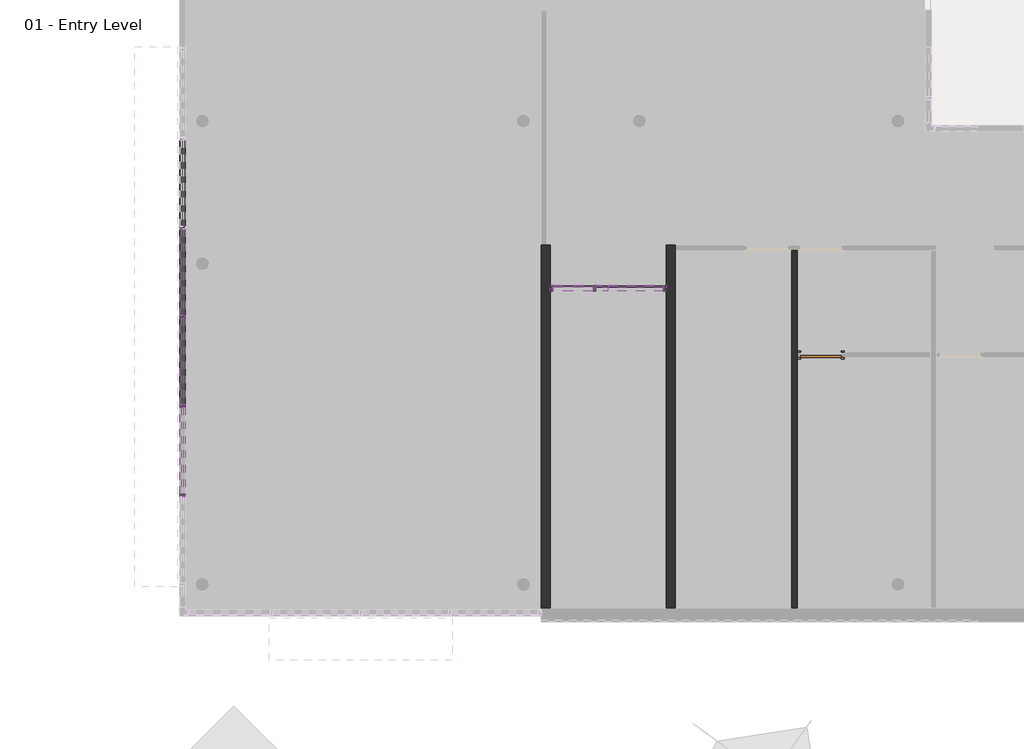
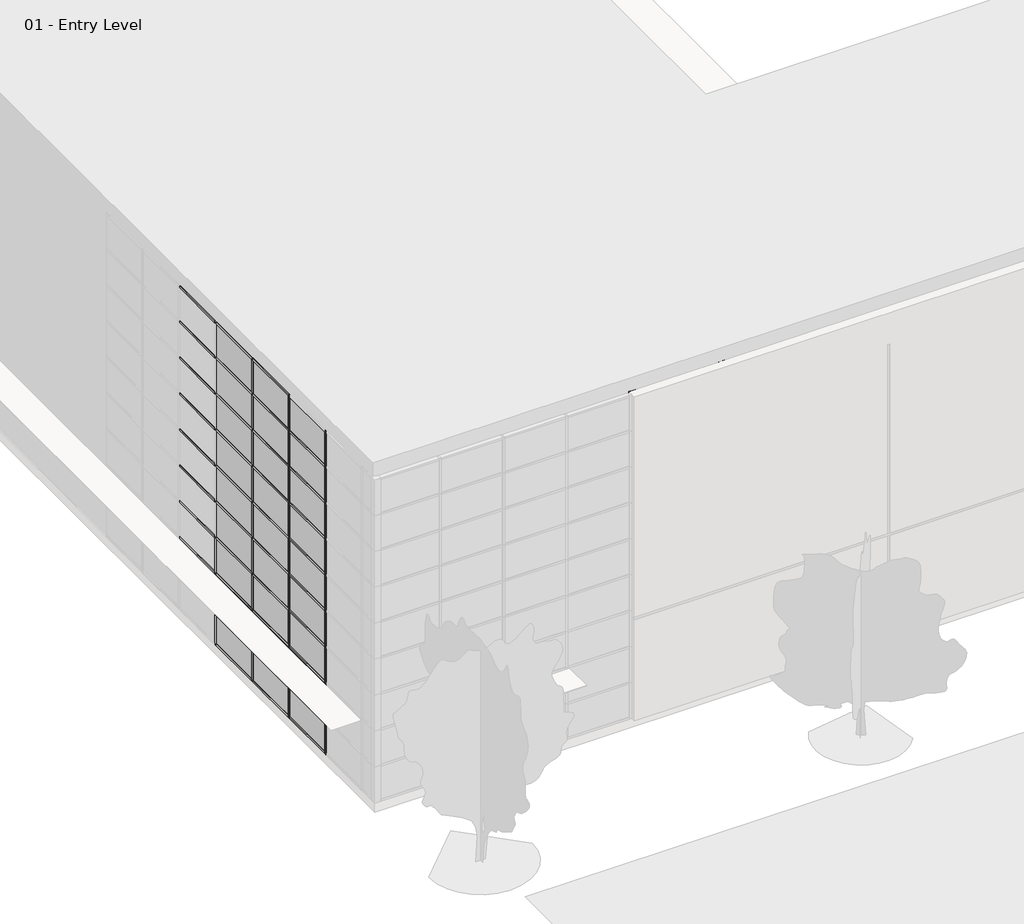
# One storey, part 7 of 34: 85 members, 31 plates, 3 walls, 2 doors.
"""IFC4 building model written with IfcOpenShell, lengths in millimetres."""

from ifc_helpers import new_model, si_unit, origin, place, context, project, spatial, faceted_brep, transform, mapped, element, save
from components import curtain_wall_sgl_glass_curtain_wall_sgl_glass_c2d4b377, door_a1797ceb, member_2b49869a, member_18e22e2d, member_9193c932, member_391b434c, member_9e90ae50, member_6186cc23, member_5d67b9fc, member_c327c56d, member_a50b3cda, member_410c6227, member_73c23c35, member_bcb6a316, member_d3323a85, member_7bd2cd2c, member_6be37683, system_panel_glazed_1b9d6098, system_panel_glazed_70da479d, system_panel_glazed_652e8fc4, system_panel_glazed_8dc8626f, system_panel_glazed_561e95a3, system_panel_glazed_c516a964, system_panel_solid_b376696c, system_panel_solid_77e8b053

model = new_model("IFC4")

# Units and contexts
model_context = context("Model", 3, world=origin())
ifc_project = project(units=[si_unit("LENGTHUNIT", "METRE", prefix="MILLI")], contexts=[model_context])

# Site, building, storey
site = spatial("IfcSite", under=ifc_project)
building = spatial("IfcBuilding", under=site)
storey = spatial("IfcBuildingStorey", under=building, Name="01 - Entry Level", Elevation=0.0)

# Doors
placement = place(None, origin())
curtain_wall_sgl_glass_curtain_wall_sgl_glass_shape = curtain_wall_sgl_glass_curtain_wall_sgl_glass_c2d4b377(model_context)
element("IfcDoor", 1, ObjectType="Curtain Wall Sgl Glass : Curtain Wall Sgl Glass", at=placement, inside=storey, context=model_context, shape_type="MappedRepresentation", body=[
    mapped(curtain_wall_sgl_glass_curtain_wall_sgl_glass_shape, transform((9081.4207476, 7356.4, 0.0), x_axis=(-1.0, 0.0, 0.0), y_axis=(0.0, -1.0, 0.0), z_axis=(0.0, 0.0, 1.0))),
])
door_shape = door_a1797ceb(model_context)
element("IfcDoor", 2, ObjectType="Single-Flush : 36\" x 84\"", at=placement, inside=storey, context=model_context, shape_type="MappedRepresentation", body=[
    mapped(door_shape, transform((14732.9207476, 5832.4, 0.0), x_axis=(-1.0, 0.0, 0.0), y_axis=(0.0, -1.0, 0.0), z_axis=(0.0, 0.0, 1.0))),
])

# Members
member_shape = member_2b49869a(model_context)
element("IfcMember", 3, ObjectType="Rectangular Mullion : 2.5\" x 5\" rectangular", at=placement, inside=storey, context=model_context, shape_type="MappedRepresentation", body=[
    mapped(member_shape, transform((178.7207476, 6696.0, 9753.6), x_axis=(0.0, -1.0, 0.0), y_axis=(-1.0, 0.0, 0.0), z_axis=(0.0, 0.0, -1.0))),
])
element("IfcMember", 4, ObjectType="Rectangular Mullion : 2.5\" x 5\" rectangular", at=placement, inside=storey, context=model_context, shape_type="MappedRepresentation", body=[
    mapped(member_shape, transform((178.7207476, 4664.0, 9753.6), x_axis=(0.0, -1.0, 0.0), y_axis=(-1.0, 0.0, 0.0), z_axis=(0.0, 0.0, -1.0))),
])
element("IfcMember", 5, ObjectType="Rectangular Mullion : 2.5\" x 5\" rectangular", at=placement, inside=storey, context=model_context, shape_type="MappedRepresentation", body=[
    mapped(member_shape, transform((178.7207476, 2632.0, 9753.6), x_axis=(0.0, -1.0, 0.0), y_axis=(-1.0, 0.0, 0.0), z_axis=(0.0, 0.0, -1.0))),
])
member_2_shape = member_18e22e2d(model_context)
element("IfcMember", 6, ObjectType="Rectangular Mullion : 2.5\" x 5\" rectangular", at=placement, inside=storey, context=model_context, shape_type="MappedRepresentation", body=[
    mapped(member_2_shape, transform((9570.3707476, 7356.4, 2438.4), x_axis=(-1.0, 0.0, 0.0), y_axis=(0.0, 1.0, 0.0), z_axis=(0.0, 0.0, -1.0))),
])
member_3_shape = member_9193c932(model_context)
element("IfcMember", 7, ObjectType="Rectangular Mullion : 2.5\" x 5\" rectangular", at=placement, inside=storey, context=model_context, shape_type="MappedRepresentation", body=[
    mapped(member_3_shape, transform((11202.3207476, 7356.4, 3403.6), x_axis=(1.0, 0.0, 0.0), y_axis=(0.0, 1.0, 0.0), z_axis=(0.0, 0.0, 1.0))),
])
element("IfcMember", 8, ObjectType="Rectangular Mullion : 2.5\" x 5\" rectangular", at=placement, inside=storey, context=model_context, shape_type="MappedRepresentation", body=[
    mapped(member_3_shape, transform((8560.7207476, 7356.4, 2438.4), x_axis=(-1.0, 0.0, 0.0), y_axis=(0.0, 1.0, 0.0), z_axis=(0.0, 0.0, -1.0))),
])
member_4_shape = member_391b434c(model_context)
element("IfcMember", 9, ObjectType="Rectangular Mullion : 2.5\" x 5\" rectangular", at=placement, inside=storey, context=model_context, shape_type="MappedRepresentation", body=[
    mapped(member_4_shape, transform((178.7207476, 8759.75, 10972.8), x_axis=(0.0, 0.0, 1.0), y_axis=(-1.0, 0.0, 0.0), z_axis=(0.0, -1.0, 0.0))),
])
element("IfcMember", 10, ObjectType="Rectangular Mullion : 2.5\" x 5\" rectangular", at=placement, inside=storey, context=model_context, shape_type="MappedRepresentation", body=[
    mapped(member_4_shape, transform((178.7207476, 6727.75, 10972.8), x_axis=(0.0, 0.0, 1.0), y_axis=(-1.0, 0.0, 0.0), z_axis=(0.0, -1.0, 0.0))),
])
element("IfcMember", 11, ObjectType="Rectangular Mullion : 2.5\" x 5\" rectangular", at=placement, inside=storey, context=model_context, shape_type="MappedRepresentation", body=[
    mapped(member_4_shape, transform((178.7207476, 4695.75, 10972.8), x_axis=(0.0, 0.0, 1.0), y_axis=(-1.0, 0.0, 0.0), z_axis=(0.0, -1.0, 0.0))),
])
element("IfcMember", 12, ObjectType="Rectangular Mullion : 2.5\" x 5\" rectangular", at=placement, inside=storey, context=model_context, shape_type="MappedRepresentation", body=[
    mapped(member_4_shape, transform((178.7207476, 8696.25, 0.0), x_axis=(0.0, 0.0, -1.0), y_axis=(-1.0, 0.0, 0.0), z_axis=(0.0, 1.0, 0.0))),
])
element("IfcMember", 13, ObjectType="Rectangular Mullion : 2.5\" x 5\" rectangular", at=placement, inside=storey, context=model_context, shape_type="MappedRepresentation", body=[
    mapped(member_4_shape, transform((178.7207476, 6664.25, 0.0), x_axis=(0.0, 0.0, -1.0), y_axis=(-1.0, 0.0, 0.0), z_axis=(0.0, 1.0, 0.0))),
])
element("IfcMember", 14, ObjectType="Rectangular Mullion : 2.5\" x 5\" rectangular", at=placement, inside=storey, context=model_context, shape_type="MappedRepresentation", body=[
    mapped(member_4_shape, transform((178.7207476, 4632.25, 0.0), x_axis=(0.0, 0.0, -1.0), y_axis=(-1.0, 0.0, 0.0), z_axis=(0.0, 1.0, 0.0))),
])
member_5_shape = member_9e90ae50(model_context)
element("IfcMember", 15, ObjectType="Rectangular Mullion : 2.5\" x 5\" rectangular", at=placement, inside=storey, context=model_context, shape_type="MappedRepresentation", body=[
    mapped(member_5_shape, transform((178.7207476, 8759.75, 1219.2), x_axis=(0.0, 0.0, 1.0), y_axis=(-1.0, 0.0, 0.0), z_axis=(0.0, -1.0, 0.0))),
])
element("IfcMember", 16, ObjectType="Rectangular Mullion : 2.5\" x 5\" rectangular", at=placement, inside=storey, context=model_context, shape_type="MappedRepresentation", body=[
    mapped(member_5_shape, transform((178.7207476, 6727.75, 1219.2), x_axis=(0.0, 0.0, 1.0), y_axis=(-1.0, 0.0, 0.0), z_axis=(0.0, -1.0, 0.0))),
])
element("IfcMember", 17, ObjectType="Rectangular Mullion : 2.5\" x 5\" rectangular", at=placement, inside=storey, context=model_context, shape_type="MappedRepresentation", body=[
    mapped(member_5_shape, transform((178.7207476, 4695.75, 1219.2), x_axis=(0.0, 0.0, 1.0), y_axis=(-1.0, 0.0, 0.0), z_axis=(0.0, -1.0, 0.0))),
])
element("IfcMember", 18, ObjectType="Rectangular Mullion : 2.5\" x 5\" rectangular", at=placement, inside=storey, context=model_context, shape_type="MappedRepresentation", body=[
    mapped(member_5_shape, transform((178.7207476, 8759.75, 2438.4), x_axis=(0.0, 0.0, 1.0), y_axis=(-1.0, 0.0, 0.0), z_axis=(0.0, -1.0, 0.0))),
])
element("IfcMember", 19, ObjectType="Rectangular Mullion : 2.5\" x 5\" rectangular", at=placement, inside=storey, context=model_context, shape_type="MappedRepresentation", body=[
    mapped(member_5_shape, transform((178.7207476, 6727.75, 2438.4), x_axis=(0.0, 0.0, 1.0), y_axis=(-1.0, 0.0, 0.0), z_axis=(0.0, -1.0, 0.0))),
])
element("IfcMember", 20, ObjectType="Rectangular Mullion : 2.5\" x 5\" rectangular", at=placement, inside=storey, context=model_context, shape_type="MappedRepresentation", body=[
    mapped(member_5_shape, transform((178.7207476, 4695.75, 2438.4), x_axis=(0.0, 0.0, 1.0), y_axis=(-1.0, 0.0, 0.0), z_axis=(0.0, -1.0, 0.0))),
])
element("IfcMember", 21, ObjectType="Rectangular Mullion : 2.5\" x 5\" rectangular", at=placement, inside=storey, context=model_context, shape_type="MappedRepresentation", body=[
    mapped(member_5_shape, transform((178.7207476, 2663.75, 2438.4), x_axis=(0.0, 0.0, 1.0), y_axis=(-1.0, 0.0, 0.0), z_axis=(0.0, -1.0, 0.0))),
])
element("IfcMember", 22, ObjectType="Rectangular Mullion : 2.5\" x 5\" rectangular", at=placement, inside=storey, context=model_context, shape_type="MappedRepresentation", body=[
    mapped(member_5_shape, transform((178.7207476, 8759.75, 3657.6), x_axis=(0.0, 0.0, 1.0), y_axis=(-1.0, 0.0, 0.0), z_axis=(0.0, -1.0, 0.0))),
])
element("IfcMember", 23, ObjectType="Rectangular Mullion : 2.5\" x 5\" rectangular", at=placement, inside=storey, context=model_context, shape_type="MappedRepresentation", body=[
    mapped(member_5_shape, transform((178.7207476, 6727.75, 3657.6), x_axis=(0.0, 0.0, 1.0), y_axis=(-1.0, 0.0, 0.0), z_axis=(0.0, -1.0, 0.0))),
])
element("IfcMember", 24, ObjectType="Rectangular Mullion : 2.5\" x 5\" rectangular", at=placement, inside=storey, context=model_context, shape_type="MappedRepresentation", body=[
    mapped(member_5_shape, transform((178.7207476, 4695.75, 3657.6), x_axis=(0.0, 0.0, 1.0), y_axis=(-1.0, 0.0, 0.0), z_axis=(0.0, -1.0, 0.0))),
])
element("IfcMember", 25, ObjectType="Rectangular Mullion : 2.5\" x 5\" rectangular", at=placement, inside=storey, context=model_context, shape_type="MappedRepresentation", body=[
    mapped(member_5_shape, transform((178.7207476, 2663.75, 3657.6), x_axis=(0.0, 0.0, 1.0), y_axis=(-1.0, 0.0, 0.0), z_axis=(0.0, -1.0, 0.0))),
])
element("IfcMember", 26, ObjectType="Rectangular Mullion : 2.5\" x 5\" rectangular", at=placement, inside=storey, context=model_context, shape_type="MappedRepresentation", body=[
    mapped(member_5_shape, transform((178.7207476, 8759.75, 4876.8), x_axis=(0.0, 0.0, 1.0), y_axis=(-1.0, 0.0, 0.0), z_axis=(0.0, -1.0, 0.0))),
])
element("IfcMember", 27, ObjectType="Rectangular Mullion : 2.5\" x 5\" rectangular", at=placement, inside=storey, context=model_context, shape_type="MappedRepresentation", body=[
    mapped(member_5_shape, transform((178.7207476, 6727.75, 4876.8), x_axis=(0.0, 0.0, 1.0), y_axis=(-1.0, 0.0, 0.0), z_axis=(0.0, -1.0, 0.0))),
])
element("IfcMember", 28, ObjectType="Rectangular Mullion : 2.5\" x 5\" rectangular", at=placement, inside=storey, context=model_context, shape_type="MappedRepresentation", body=[
    mapped(member_5_shape, transform((178.7207476, 4695.75, 4876.8), x_axis=(0.0, 0.0, 1.0), y_axis=(-1.0, 0.0, 0.0), z_axis=(0.0, -1.0, 0.0))),
])
element("IfcMember", 29, ObjectType="Rectangular Mullion : 2.5\" x 5\" rectangular", at=placement, inside=storey, context=model_context, shape_type="MappedRepresentation", body=[
    mapped(member_5_shape, transform((178.7207476, 2663.75, 4876.8), x_axis=(0.0, 0.0, 1.0), y_axis=(-1.0, 0.0, 0.0), z_axis=(0.0, -1.0, 0.0))),
])
element("IfcMember", 30, ObjectType="Rectangular Mullion : 2.5\" x 5\" rectangular", at=placement, inside=storey, context=model_context, shape_type="MappedRepresentation", body=[
    mapped(member_5_shape, transform((178.7207476, 8759.75, 6096.0), x_axis=(0.0, 0.0, 1.0), y_axis=(-1.0, 0.0, 0.0), z_axis=(0.0, -1.0, 0.0))),
])
element("IfcMember", 31, ObjectType="Rectangular Mullion : 2.5\" x 5\" rectangular", at=placement, inside=storey, context=model_context, shape_type="MappedRepresentation", body=[
    mapped(member_5_shape, transform((178.7207476, 6727.75, 6096.0), x_axis=(0.0, 0.0, 1.0), y_axis=(-1.0, 0.0, 0.0), z_axis=(0.0, -1.0, 0.0))),
])
element("IfcMember", 32, ObjectType="Rectangular Mullion : 2.5\" x 5\" rectangular", at=placement, inside=storey, context=model_context, shape_type="MappedRepresentation", body=[
    mapped(member_5_shape, transform((178.7207476, 4695.75, 6096.0), x_axis=(0.0, 0.0, 1.0), y_axis=(-1.0, 0.0, 0.0), z_axis=(0.0, -1.0, 0.0))),
])
element("IfcMember", 33, ObjectType="Rectangular Mullion : 2.5\" x 5\" rectangular", at=placement, inside=storey, context=model_context, shape_type="MappedRepresentation", body=[
    mapped(member_5_shape, transform((178.7207476, 2663.75, 6096.0), x_axis=(0.0, 0.0, 1.0), y_axis=(-1.0, 0.0, 0.0), z_axis=(0.0, -1.0, 0.0))),
])
element("IfcMember", 34, ObjectType="Rectangular Mullion : 2.5\" x 5\" rectangular", at=placement, inside=storey, context=model_context, shape_type="MappedRepresentation", body=[
    mapped(member_5_shape, transform((178.7207476, 8759.75, 7315.2), x_axis=(0.0, 0.0, 1.0), y_axis=(-1.0, 0.0, 0.0), z_axis=(0.0, -1.0, 0.0))),
])
element("IfcMember", 35, ObjectType="Rectangular Mullion : 2.5\" x 5\" rectangular", at=placement, inside=storey, context=model_context, shape_type="MappedRepresentation", body=[
    mapped(member_5_shape, transform((178.7207476, 6727.75, 7315.2), x_axis=(0.0, 0.0, 1.0), y_axis=(-1.0, 0.0, 0.0), z_axis=(0.0, -1.0, 0.0))),
])
element("IfcMember", 36, ObjectType="Rectangular Mullion : 2.5\" x 5\" rectangular", at=placement, inside=storey, context=model_context, shape_type="MappedRepresentation", body=[
    mapped(member_5_shape, transform((178.7207476, 4695.75, 7315.2), x_axis=(0.0, 0.0, 1.0), y_axis=(-1.0, 0.0, 0.0), z_axis=(0.0, -1.0, 0.0))),
])
element("IfcMember", 37, ObjectType="Rectangular Mullion : 2.5\" x 5\" rectangular", at=placement, inside=storey, context=model_context, shape_type="MappedRepresentation", body=[
    mapped(member_5_shape, transform((178.7207476, 2663.75, 7315.2), x_axis=(0.0, 0.0, 1.0), y_axis=(-1.0, 0.0, 0.0), z_axis=(0.0, -1.0, 0.0))),
])
element("IfcMember", 38, ObjectType="Rectangular Mullion : 2.5\" x 5\" rectangular", at=placement, inside=storey, context=model_context, shape_type="MappedRepresentation", body=[
    mapped(member_5_shape, transform((178.7207476, 8759.75, 8534.4), x_axis=(0.0, 0.0, 1.0), y_axis=(-1.0, 0.0, 0.0), z_axis=(0.0, -1.0, 0.0))),
])
element("IfcMember", 39, ObjectType="Rectangular Mullion : 2.5\" x 5\" rectangular", at=placement, inside=storey, context=model_context, shape_type="MappedRepresentation", body=[
    mapped(member_5_shape, transform((178.7207476, 6727.75, 8534.4), x_axis=(0.0, 0.0, 1.0), y_axis=(-1.0, 0.0, 0.0), z_axis=(0.0, -1.0, 0.0))),
])
element("IfcMember", 40, ObjectType="Rectangular Mullion : 2.5\" x 5\" rectangular", at=placement, inside=storey, context=model_context, shape_type="MappedRepresentation", body=[
    mapped(member_5_shape, transform((178.7207476, 4695.75, 8534.4), x_axis=(0.0, 0.0, 1.0), y_axis=(-1.0, 0.0, 0.0), z_axis=(0.0, -1.0, 0.0))),
])
element("IfcMember", 41, ObjectType="Rectangular Mullion : 2.5\" x 5\" rectangular", at=placement, inside=storey, context=model_context, shape_type="MappedRepresentation", body=[
    mapped(member_5_shape, transform((178.7207476, 2663.75, 8534.4), x_axis=(0.0, 0.0, 1.0), y_axis=(-1.0, 0.0, 0.0), z_axis=(0.0, -1.0, 0.0))),
])
element("IfcMember", 42, ObjectType="Rectangular Mullion : 2.5\" x 5\" rectangular", at=placement, inside=storey, context=model_context, shape_type="MappedRepresentation", body=[
    mapped(member_5_shape, transform((178.7207476, 8759.75, 9753.6), x_axis=(0.0, 0.0, 1.0), y_axis=(-1.0, 0.0, 0.0), z_axis=(0.0, -1.0, 0.0))),
])
element("IfcMember", 43, ObjectType="Rectangular Mullion : 2.5\" x 5\" rectangular", at=placement, inside=storey, context=model_context, shape_type="MappedRepresentation", body=[
    mapped(member_5_shape, transform((178.7207476, 6727.75, 9753.6), x_axis=(0.0, 0.0, 1.0), y_axis=(-1.0, 0.0, 0.0), z_axis=(0.0, -1.0, 0.0))),
])
element("IfcMember", 44, ObjectType="Rectangular Mullion : 2.5\" x 5\" rectangular", at=placement, inside=storey, context=model_context, shape_type="MappedRepresentation", body=[
    mapped(member_5_shape, transform((178.7207476, 4695.75, 9753.6), x_axis=(0.0, 0.0, 1.0), y_axis=(-1.0, 0.0, 0.0), z_axis=(0.0, -1.0, 0.0))),
])
element("IfcMember", 45, ObjectType="Rectangular Mullion : 2.5\" x 5\" rectangular", at=placement, inside=storey, context=model_context, shape_type="MappedRepresentation", body=[
    mapped(member_5_shape, transform((178.7207476, 2663.75, 9753.6), x_axis=(0.0, 0.0, 1.0), y_axis=(-1.0, 0.0, 0.0), z_axis=(0.0, -1.0, 0.0))),
])
element("IfcMember", 46, ObjectType="Rectangular Mullion : 2.5\" x 5\" rectangular", at=placement, inside=storey, context=model_context, shape_type="MappedRepresentation", body=[
    mapped(member_shape, transform((178.7207476, 8728.0, 0.0), x_axis=(0.0, -1.0, 0.0), y_axis=(-1.0, 0.0, 0.0), z_axis=(0.0, 0.0, -1.0))),
])
element("IfcMember", 47, ObjectType="Rectangular Mullion : 2.5\" x 5\" rectangular", at=placement, inside=storey, context=model_context, shape_type="MappedRepresentation", body=[
    mapped(member_shape, transform((178.7207476, 6696.0, 0.0), x_axis=(0.0, -1.0, 0.0), y_axis=(-1.0, 0.0, 0.0), z_axis=(0.0, 0.0, -1.0))),
])
element("IfcMember", 48, ObjectType="Rectangular Mullion : 2.5\" x 5\" rectangular", at=placement, inside=storey, context=model_context, shape_type="MappedRepresentation", body=[
    mapped(member_shape, transform((178.7207476, 4664.0, 0.0), x_axis=(0.0, -1.0, 0.0), y_axis=(-1.0, 0.0, 0.0), z_axis=(0.0, 0.0, -1.0))),
])
element("IfcMember", 49, ObjectType="Rectangular Mullion : 2.5\" x 5\" rectangular", at=placement, inside=storey, context=model_context, shape_type="MappedRepresentation", body=[
    mapped(member_shape, transform((178.7207476, 2632.0, 0.0), x_axis=(0.0, -1.0, 0.0), y_axis=(-1.0, 0.0, 0.0), z_axis=(0.0, 0.0, -1.0))),
])
element("IfcMember", 50, ObjectType="Rectangular Mullion : 2.5\" x 5\" rectangular", at=placement, inside=storey, context=model_context, shape_type="MappedRepresentation", body=[
    mapped(member_shape, transform((178.7207476, 8728.0, 1219.2), x_axis=(0.0, -1.0, 0.0), y_axis=(-1.0, 0.0, 0.0), z_axis=(0.0, 0.0, -1.0))),
])
element("IfcMember", 51, ObjectType="Rectangular Mullion : 2.5\" x 5\" rectangular", at=placement, inside=storey, context=model_context, shape_type="MappedRepresentation", body=[
    mapped(member_shape, transform((178.7207476, 6696.0, 1219.2), x_axis=(0.0, -1.0, 0.0), y_axis=(-1.0, 0.0, 0.0), z_axis=(0.0, 0.0, -1.0))),
])
element("IfcMember", 52, ObjectType="Rectangular Mullion : 2.5\" x 5\" rectangular", at=placement, inside=storey, context=model_context, shape_type="MappedRepresentation", body=[
    mapped(member_shape, transform((178.7207476, 4664.0, 1219.2), x_axis=(0.0, -1.0, 0.0), y_axis=(-1.0, 0.0, 0.0), z_axis=(0.0, 0.0, -1.0))),
])
element("IfcMember", 53, ObjectType="Rectangular Mullion : 2.5\" x 5\" rectangular", at=placement, inside=storey, context=model_context, shape_type="MappedRepresentation", body=[
    mapped(member_shape, transform((178.7207476, 2632.0, 1219.2), x_axis=(0.0, -1.0, 0.0), y_axis=(-1.0, 0.0, 0.0), z_axis=(0.0, 0.0, -1.0))),
])
element("IfcMember", 54, ObjectType="Rectangular Mullion : 2.5\" x 5\" rectangular", at=placement, inside=storey, context=model_context, shape_type="MappedRepresentation", body=[
    mapped(member_shape, transform((178.7207476, 8728.0, 2438.4), x_axis=(0.0, -1.0, 0.0), y_axis=(-1.0, 0.0, 0.0), z_axis=(0.0, 0.0, -1.0))),
])
element("IfcMember", 55, ObjectType="Rectangular Mullion : 2.5\" x 5\" rectangular", at=placement, inside=storey, context=model_context, shape_type="MappedRepresentation", body=[
    mapped(member_shape, transform((178.7207476, 6696.0, 2438.4), x_axis=(0.0, -1.0, 0.0), y_axis=(-1.0, 0.0, 0.0), z_axis=(0.0, 0.0, -1.0))),
])
element("IfcMember", 56, ObjectType="Rectangular Mullion : 2.5\" x 5\" rectangular", at=placement, inside=storey, context=model_context, shape_type="MappedRepresentation", body=[
    mapped(member_shape, transform((178.7207476, 4664.0, 2438.4), x_axis=(0.0, -1.0, 0.0), y_axis=(-1.0, 0.0, 0.0), z_axis=(0.0, 0.0, -1.0))),
])
element("IfcMember", 57, ObjectType="Rectangular Mullion : 2.5\" x 5\" rectangular", at=placement, inside=storey, context=model_context, shape_type="MappedRepresentation", body=[
    mapped(member_shape, transform((178.7207476, 2632.0, 2438.4), x_axis=(0.0, -1.0, 0.0), y_axis=(-1.0, 0.0, 0.0), z_axis=(0.0, 0.0, -1.0))),
])
element("IfcMember", 58, ObjectType="Rectangular Mullion : 2.5\" x 5\" rectangular", at=placement, inside=storey, context=model_context, shape_type="MappedRepresentation", body=[
    mapped(member_shape, transform((178.7207476, 6696.0, 3657.6), x_axis=(0.0, -1.0, 0.0), y_axis=(-1.0, 0.0, 0.0), z_axis=(0.0, 0.0, -1.0))),
])
element("IfcMember", 59, ObjectType="Rectangular Mullion : 2.5\" x 5\" rectangular", at=placement, inside=storey, context=model_context, shape_type="MappedRepresentation", body=[
    mapped(member_shape, transform((178.7207476, 4664.0, 3657.6), x_axis=(0.0, -1.0, 0.0), y_axis=(-1.0, 0.0, 0.0), z_axis=(0.0, 0.0, -1.0))),
])
element("IfcMember", 60, ObjectType="Rectangular Mullion : 2.5\" x 5\" rectangular", at=placement, inside=storey, context=model_context, shape_type="MappedRepresentation", body=[
    mapped(member_shape, transform((178.7207476, 2632.0, 3657.6), x_axis=(0.0, -1.0, 0.0), y_axis=(-1.0, 0.0, 0.0), z_axis=(0.0, 0.0, -1.0))),
])
element("IfcMember", 61, ObjectType="Rectangular Mullion : 2.5\" x 5\" rectangular", at=placement, inside=storey, context=model_context, shape_type="MappedRepresentation", body=[
    mapped(member_shape, transform((178.7207476, 6696.0, 4876.8), x_axis=(0.0, -1.0, 0.0), y_axis=(-1.0, 0.0, 0.0), z_axis=(0.0, 0.0, -1.0))),
])
element("IfcMember", 62, ObjectType="Rectangular Mullion : 2.5\" x 5\" rectangular", at=placement, inside=storey, context=model_context, shape_type="MappedRepresentation", body=[
    mapped(member_shape, transform((178.7207476, 4664.0, 4876.8), x_axis=(0.0, -1.0, 0.0), y_axis=(-1.0, 0.0, 0.0), z_axis=(0.0, 0.0, -1.0))),
])
element("IfcMember", 63, ObjectType="Rectangular Mullion : 2.5\" x 5\" rectangular", at=placement, inside=storey, context=model_context, shape_type="MappedRepresentation", body=[
    mapped(member_shape, transform((178.7207476, 2632.0, 4876.8), x_axis=(0.0, -1.0, 0.0), y_axis=(-1.0, 0.0, 0.0), z_axis=(0.0, 0.0, -1.0))),
])
element("IfcMember", 64, ObjectType="Rectangular Mullion : 2.5\" x 5\" rectangular", at=placement, inside=storey, context=model_context, shape_type="MappedRepresentation", body=[
    mapped(member_shape, transform((178.7207476, 6696.0, 6096.0), x_axis=(0.0, -1.0, 0.0), y_axis=(-1.0, 0.0, 0.0), z_axis=(0.0, 0.0, -1.0))),
])
element("IfcMember", 65, ObjectType="Rectangular Mullion : 2.5\" x 5\" rectangular", at=placement, inside=storey, context=model_context, shape_type="MappedRepresentation", body=[
    mapped(member_shape, transform((178.7207476, 4664.0, 6096.0), x_axis=(0.0, -1.0, 0.0), y_axis=(-1.0, 0.0, 0.0), z_axis=(0.0, 0.0, -1.0))),
])
element("IfcMember", 66, ObjectType="Rectangular Mullion : 2.5\" x 5\" rectangular", at=placement, inside=storey, context=model_context, shape_type="MappedRepresentation", body=[
    mapped(member_shape, transform((178.7207476, 2632.0, 6096.0), x_axis=(0.0, -1.0, 0.0), y_axis=(-1.0, 0.0, 0.0), z_axis=(0.0, 0.0, -1.0))),
])
element("IfcMember", 67, ObjectType="Rectangular Mullion : 2.5\" x 5\" rectangular", at=placement, inside=storey, context=model_context, shape_type="MappedRepresentation", body=[
    mapped(member_shape, transform((178.7207476, 6696.0, 7315.2), x_axis=(0.0, -1.0, 0.0), y_axis=(-1.0, 0.0, 0.0), z_axis=(0.0, 0.0, -1.0))),
])
element("IfcMember", 68, ObjectType="Rectangular Mullion : 2.5\" x 5\" rectangular", at=placement, inside=storey, context=model_context, shape_type="MappedRepresentation", body=[
    mapped(member_shape, transform((178.7207476, 4664.0, 7315.2), x_axis=(0.0, -1.0, 0.0), y_axis=(-1.0, 0.0, 0.0), z_axis=(0.0, 0.0, -1.0))),
])
element("IfcMember", 69, ObjectType="Rectangular Mullion : 2.5\" x 5\" rectangular", at=placement, inside=storey, context=model_context, shape_type="MappedRepresentation", body=[
    mapped(member_shape, transform((178.7207476, 2632.0, 7315.2), x_axis=(0.0, -1.0, 0.0), y_axis=(-1.0, 0.0, 0.0), z_axis=(0.0, 0.0, -1.0))),
])
element("IfcMember", 70, ObjectType="Rectangular Mullion : 2.5\" x 5\" rectangular", at=placement, inside=storey, context=model_context, shape_type="MappedRepresentation", body=[
    mapped(member_shape, transform((178.7207476, 6696.0, 8534.4), x_axis=(0.0, -1.0, 0.0), y_axis=(-1.0, 0.0, 0.0), z_axis=(0.0, 0.0, -1.0))),
])
element("IfcMember", 71, ObjectType="Rectangular Mullion : 2.5\" x 5\" rectangular", at=placement, inside=storey, context=model_context, shape_type="MappedRepresentation", body=[
    mapped(member_shape, transform((178.7207476, 4664.0, 8534.4), x_axis=(0.0, -1.0, 0.0), y_axis=(-1.0, 0.0, 0.0), z_axis=(0.0, 0.0, -1.0))),
])
element("IfcMember", 72, ObjectType="Rectangular Mullion : 2.5\" x 5\" rectangular", at=placement, inside=storey, context=model_context, shape_type="MappedRepresentation", body=[
    mapped(member_shape, transform((178.7207476, 2632.0, 8534.4), x_axis=(0.0, -1.0, 0.0), y_axis=(-1.0, 0.0, 0.0), z_axis=(0.0, 0.0, -1.0))),
])
member_6_shape = member_6186cc23(model_context)
element("IfcMember", 73, ObjectType="Rectangular Mullion : 2.5\" x 5\" rectangular", at=placement, inside=storey, context=model_context, shape_type="MappedRepresentation", body=[
    mapped(member_6_shape, transform((9570.3707476, 7356.4, 0.0), x_axis=(-1.0, 0.0, 0.0), y_axis=(0.0, 1.0, 0.0), z_axis=(0.0, 0.0, -1.0))),
])
member_7_shape = member_5d67b9fc(model_context)
element("IfcMember", 74, ObjectType="Rectangular Mullion : 2.5\" x 5\" rectangular", at=placement, inside=storey, context=model_context, shape_type="MappedRepresentation", body=[
    mapped(member_7_shape, transform((9570.3707476, 7356.4, 2165.35), x_axis=(-1.0, 0.0, 0.0), y_axis=(0.0, 1.0, 0.0), z_axis=(0.0, 0.0, -1.0))),
])
member_8_shape = member_c327c56d(model_context)
element("IfcMember", 75, ObjectType="Rectangular Mullion : 2.5\" x 5\" rectangular", at=placement, inside=storey, context=model_context, shape_type="MappedRepresentation", body=[
    mapped(member_8_shape, transform((11202.3207476, 7356.4, 2438.4), x_axis=(1.0, 0.0, 0.0), y_axis=(0.0, 1.0, 0.0), z_axis=(0.0, 0.0, 1.0))),
])
member_9_shape = member_a50b3cda(model_context)
element("IfcMember", 76, ObjectType="Rectangular Mullion : 2.5\" x 5\" rectangular", at=placement, inside=storey, context=model_context, shape_type="MappedRepresentation", body=[
    mapped(member_9_shape, transform((11202.3207476, 7356.4, 2165.35), x_axis=(1.0, 0.0, 0.0), y_axis=(0.0, 1.0, 0.0), z_axis=(0.0, 0.0, 1.0))),
])
member_10_shape = member_410c6227(model_context)
element("IfcMember", 77, ObjectType="Rectangular Mullion : 2.5\" x 5\" rectangular", at=placement, inside=storey, context=model_context, shape_type="MappedRepresentation", body=[
    mapped(member_10_shape, transform((8624.2207476, 7356.4, 2438.4), x_axis=(0.0, 0.0, 1.0), y_axis=(0.0, 1.0, 0.0), z_axis=(-1.0, 0.0, 0.0))),
])
element("IfcMember", 78, ObjectType="Rectangular Mullion : 2.5\" x 5\" rectangular", at=placement, inside=storey, context=model_context, shape_type="MappedRepresentation", body=[
    mapped(member_10_shape, transform((8624.2207476, 7356.4, 2165.35), x_axis=(0.0, 0.0, 1.0), y_axis=(0.0, 1.0, 0.0), z_axis=(-1.0, 0.0, 0.0))),
])
member_11_shape = member_73c23c35(model_context)
element("IfcMember", 79, ObjectType="Rectangular Mullion : 2.5\" x 5\" rectangular", at=placement, inside=storey, context=model_context, shape_type="MappedRepresentation", body=[
    mapped(member_11_shape, transform((8624.2207476, 7356.4, 3403.6), x_axis=(0.0, 0.0, 1.0), y_axis=(0.0, 1.0, 0.0), z_axis=(-1.0, 0.0, 0.0))),
])
element("IfcMember", 80, ObjectType="Rectangular Mullion : 2.5\" x 5\" rectangular", at=placement, inside=storey, context=model_context, shape_type="MappedRepresentation", body=[
    mapped(member_9_shape, transform((8560.7207476, 7356.4, 0.0), x_axis=(-1.0, 0.0, 0.0), y_axis=(0.0, 1.0, 0.0), z_axis=(0.0, 0.0, -1.0))),
])
element("IfcMember", 81, ObjectType="Rectangular Mullion : 2.5\" x 5\" rectangular", at=placement, inside=storey, context=model_context, shape_type="MappedRepresentation", body=[
    mapped(member_8_shape, transform((8560.7207476, 7356.4, 2165.35), x_axis=(-1.0, 0.0, 0.0), y_axis=(0.0, 1.0, 0.0), z_axis=(0.0, 0.0, -1.0))),
])
member_12_shape = member_bcb6a316(model_context)
element("IfcMember", 82, ObjectType="Rectangular Mullion : 2.5\" x 5\" rectangular", at=placement, inside=storey, context=model_context, shape_type="MappedRepresentation", body=[
    mapped(member_12_shape, transform((11138.8207476, 7356.4, 0.0), x_axis=(0.0, 0.0, -1.0), y_axis=(0.0, 1.0, 0.0), z_axis=(1.0, 0.0, 0.0))),
])
member_13_shape = member_d3323a85(model_context)
element("IfcMember", 83, ObjectType="Rectangular Mullion : 2.5\" x 5\" rectangular", at=placement, inside=storey, context=model_context, shape_type="MappedRepresentation", body=[
    mapped(member_13_shape, transform((9881.5207476, 7356.4, 0.0), x_axis=(0.0, 0.0, -1.0), y_axis=(0.0, 1.0, 0.0), z_axis=(1.0, 0.0, 0.0))),
])
member_14_shape = member_7bd2cd2c(model_context)
element("IfcMember", 84, ObjectType="Rectangular Mullion : 2.5\" x 5\" rectangular", at=placement, inside=storey, context=model_context, shape_type="MappedRepresentation", body=[
    mapped(member_14_shape, transform((9881.5207476, 7356.4, 2438.4), x_axis=(0.0, 0.0, 1.0), y_axis=(0.0, 1.0, 0.0), z_axis=(-1.0, 0.0, 0.0))),
])
member_15_shape = member_6be37683(model_context)
element("IfcMember", 85, ObjectType="Rectangular Mullion : 2.5\" x 5\" rectangular", at=placement, inside=storey, context=model_context, shape_type="MappedRepresentation", body=[
    mapped(member_15_shape, transform((9602.1207476, 7356.4, 2438.4), x_axis=(0.0, 0.0, 1.0), y_axis=(0.0, 1.0, 0.0), z_axis=(-1.0, 0.0, 0.0))),
])
element("IfcMember", 86, ObjectType="Rectangular Mullion : 2.5\" x 5\" rectangular", at=placement, inside=storey, context=model_context, shape_type="MappedRepresentation", body=[
    mapped(member_12_shape, transform((9881.5207476, 7356.4, 3403.6), x_axis=(0.0, 0.0, 1.0), y_axis=(0.0, 1.0, 0.0), z_axis=(-1.0, 0.0, 0.0))),
])
element("IfcMember", 87, ObjectType="Rectangular Mullion : 2.5\" x 5\" rectangular", at=placement, inside=storey, context=model_context, shape_type="MappedRepresentation", body=[
    mapped(member_13_shape, transform((9602.1207476, 7356.4, 3403.6), x_axis=(0.0, 0.0, 1.0), y_axis=(0.0, 1.0, 0.0), z_axis=(-1.0, 0.0, 0.0))),
])

# Plates
system_panel_glazed_shape = system_panel_glazed_1b9d6098(model_context)
element("IfcPlate", 88, ObjectType="System Panel : Glazed", at=placement, inside=storey, context=model_context, shape_type="MappedRepresentation", body=[
    mapped(system_panel_glazed_shape, transform((178.7207476, 7712.0, 63.5), x_axis=(0.0, -1.0, 0.0), y_axis=(1.0, 0.0, 0.0), z_axis=(0.0, 0.0, 1.0))),
])
element("IfcPlate", 89, ObjectType="System Panel : Glazed", at=placement, inside=storey, context=model_context, shape_type="MappedRepresentation", body=[
    mapped(system_panel_glazed_shape, transform((178.7207476, 5680.0, 63.5), x_axis=(0.0, -1.0, 0.0), y_axis=(1.0, 0.0, 0.0), z_axis=(0.0, 0.0, 1.0))),
])
element("IfcPlate", 90, ObjectType="System Panel : Glazed", at=placement, inside=storey, context=model_context, shape_type="MappedRepresentation", body=[
    mapped(system_panel_glazed_shape, transform((178.7207476, 3648.0, 63.5), x_axis=(0.0, -1.0, 0.0), y_axis=(1.0, 0.0, 0.0), z_axis=(0.0, 0.0, 1.0))),
])
system_panel_glazed_2_shape = system_panel_glazed_70da479d(model_context)
element("IfcPlate", 91, ObjectType="System Panel : Glazed", at=placement, inside=storey, context=model_context, shape_type="MappedRepresentation", body=[
    mapped(system_panel_glazed_2_shape, transform((178.7207476, 7712.0, 1250.95), x_axis=(0.0, -1.0, 0.0), y_axis=(1.0, 0.0, 0.0), z_axis=(0.0, 0.0, 1.0))),
])
element("IfcPlate", 92, ObjectType="System Panel : Glazed", at=placement, inside=storey, context=model_context, shape_type="MappedRepresentation", body=[
    mapped(system_panel_glazed_2_shape, transform((178.7207476, 5680.0, 1250.95), x_axis=(0.0, -1.0, 0.0), y_axis=(1.0, 0.0, 0.0), z_axis=(0.0, 0.0, 1.0))),
])
element("IfcPlate", 93, ObjectType="System Panel : Glazed", at=placement, inside=storey, context=model_context, shape_type="MappedRepresentation", body=[
    mapped(system_panel_glazed_2_shape, transform((178.7207476, 3648.0, 1250.95), x_axis=(0.0, -1.0, 0.0), y_axis=(1.0, 0.0, 0.0), z_axis=(0.0, 0.0, 1.0))),
])
element("IfcPlate", 94, ObjectType="System Panel : Glazed", at=placement, inside=storey, context=model_context, shape_type="MappedRepresentation", body=[
    mapped(system_panel_glazed_2_shape, transform((178.7207476, 7712.0, 3689.35), x_axis=(0.0, -1.0, 0.0), y_axis=(1.0, 0.0, 0.0), z_axis=(0.0, 0.0, 1.0))),
])
element("IfcPlate", 95, ObjectType="System Panel : Glazed", at=placement, inside=storey, context=model_context, shape_type="MappedRepresentation", body=[
    mapped(system_panel_glazed_2_shape, transform((178.7207476, 5680.0, 3689.35), x_axis=(0.0, -1.0, 0.0), y_axis=(1.0, 0.0, 0.0), z_axis=(0.0, 0.0, 1.0))),
])
element("IfcPlate", 96, ObjectType="System Panel : Glazed", at=placement, inside=storey, context=model_context, shape_type="MappedRepresentation", body=[
    mapped(system_panel_glazed_2_shape, transform((178.7207476, 3648.0, 3689.35), x_axis=(0.0, -1.0, 0.0), y_axis=(1.0, 0.0, 0.0), z_axis=(0.0, 0.0, 1.0))),
])
element("IfcPlate", 97, ObjectType="System Panel : Glazed", at=placement, inside=storey, context=model_context, shape_type="MappedRepresentation", body=[
    mapped(system_panel_glazed_2_shape, transform((178.7207476, 7712.0, 4908.55), x_axis=(0.0, -1.0, 0.0), y_axis=(1.0, 0.0, 0.0), z_axis=(0.0, 0.0, 1.0))),
])
element("IfcPlate", 98, ObjectType="System Panel : Glazed", at=placement, inside=storey, context=model_context, shape_type="MappedRepresentation", body=[
    mapped(system_panel_glazed_2_shape, transform((178.7207476, 5680.0, 4908.55), x_axis=(0.0, -1.0, 0.0), y_axis=(1.0, 0.0, 0.0), z_axis=(0.0, 0.0, 1.0))),
])
element("IfcPlate", 99, ObjectType="System Panel : Glazed", at=placement, inside=storey, context=model_context, shape_type="MappedRepresentation", body=[
    mapped(system_panel_glazed_2_shape, transform((178.7207476, 3648.0, 4908.55), x_axis=(0.0, -1.0, 0.0), y_axis=(1.0, 0.0, 0.0), z_axis=(0.0, 0.0, 1.0))),
])
element("IfcPlate", 100, ObjectType="System Panel : Glazed", at=placement, inside=storey, context=model_context, shape_type="MappedRepresentation", body=[
    mapped(system_panel_glazed_2_shape, transform((178.7207476, 7712.0, 7346.95), x_axis=(0.0, -1.0, 0.0), y_axis=(1.0, 0.0, 0.0), z_axis=(0.0, 0.0, 1.0))),
])
element("IfcPlate", 101, ObjectType="System Panel : Glazed", at=placement, inside=storey, context=model_context, shape_type="MappedRepresentation", body=[
    mapped(system_panel_glazed_2_shape, transform((178.7207476, 5680.0, 7346.95), x_axis=(0.0, -1.0, 0.0), y_axis=(1.0, 0.0, 0.0), z_axis=(0.0, 0.0, 1.0))),
])
element("IfcPlate", 102, ObjectType="System Panel : Glazed", at=placement, inside=storey, context=model_context, shape_type="MappedRepresentation", body=[
    mapped(system_panel_glazed_2_shape, transform((178.7207476, 3648.0, 7346.95), x_axis=(0.0, -1.0, 0.0), y_axis=(1.0, 0.0, 0.0), z_axis=(0.0, 0.0, 1.0))),
])
element("IfcPlate", 103, ObjectType="System Panel : Glazed", at=placement, inside=storey, context=model_context, shape_type="MappedRepresentation", body=[
    mapped(system_panel_glazed_2_shape, transform((178.7207476, 7712.0, 8566.15), x_axis=(0.0, -1.0, 0.0), y_axis=(1.0, 0.0, 0.0), z_axis=(0.0, 0.0, 1.0))),
])
element("IfcPlate", 104, ObjectType="System Panel : Glazed", at=placement, inside=storey, context=model_context, shape_type="MappedRepresentation", body=[
    mapped(system_panel_glazed_2_shape, transform((178.7207476, 5680.0, 8566.15), x_axis=(0.0, -1.0, 0.0), y_axis=(1.0, 0.0, 0.0), z_axis=(0.0, 0.0, 1.0))),
])
element("IfcPlate", 105, ObjectType="System Panel : Glazed", at=placement, inside=storey, context=model_context, shape_type="MappedRepresentation", body=[
    mapped(system_panel_glazed_2_shape, transform((178.7207476, 3648.0, 8566.15), x_axis=(0.0, -1.0, 0.0), y_axis=(1.0, 0.0, 0.0), z_axis=(0.0, 0.0, 1.0))),
])
system_panel_glazed_3_shape = system_panel_glazed_652e8fc4(model_context)
element("IfcPlate", 106, ObjectType="System Panel : Glazed", at=placement, inside=storey, context=model_context, shape_type="MappedRepresentation", body=[
    mapped(system_panel_glazed_3_shape, transform((9081.4207476, 7356.4, 2470.15), x_axis=(-1.0, 0.0, 0.0), y_axis=(0.0, -1.0, 0.0), z_axis=(0.0, 0.0, 1.0))),
])
system_panel_glazed_4_shape = system_panel_glazed_8dc8626f(model_context)
element("IfcPlate", 107, ObjectType="System Panel : Glazed", at=placement, inside=storey, context=model_context, shape_type="MappedRepresentation", body=[
    mapped(system_panel_glazed_4_shape, transform((9081.4207476, 7356.4, 2197.1), x_axis=(-1.0, 0.0, 0.0), y_axis=(0.0, -1.0, 0.0), z_axis=(0.0, 0.0, 1.0))),
])
system_panel_glazed_5_shape = system_panel_glazed_561e95a3(model_context)
element("IfcPlate", 108, ObjectType="System Panel : Glazed", at=placement, inside=storey, context=model_context, shape_type="MappedRepresentation", body=[
    mapped(system_panel_glazed_5_shape, transform((10370.4707476, 7356.4, 2470.15), x_axis=(-1.0, 0.0, 0.0), y_axis=(0.0, -1.0, 0.0), z_axis=(0.0, 0.0, 1.0))),
])
system_panel_glazed_6_shape = system_panel_glazed_c516a964(model_context)
element("IfcPlate", 109, ObjectType="System Panel : Glazed", at=placement, inside=storey, context=model_context, shape_type="MappedRepresentation", body=[
    mapped(system_panel_glazed_6_shape, transform((10370.4707476, 7356.4, 63.5), x_axis=(-1.0, 0.0, 0.0), y_axis=(0.0, -1.0, 0.0), z_axis=(0.0, 0.0, 1.0))),
])
system_panel_solid_shape = system_panel_solid_b376696c(model_context)
element("IfcPlate", 110, ObjectType="System Panel : Solid", at=placement, inside=storey, context=model_context, shape_type="MappedRepresentation", body=[
    mapped(system_panel_solid_shape, transform((178.7207476, 7712.0, 9785.35), x_axis=(0.0, -1.0, 0.0), y_axis=(1.0, 0.0, 0.0), z_axis=(0.0, 0.0, 1.0))),
])
element("IfcPlate", 111, ObjectType="System Panel : Solid", at=placement, inside=storey, context=model_context, shape_type="MappedRepresentation", body=[
    mapped(system_panel_solid_shape, transform((178.7207476, 5680.0, 9785.35), x_axis=(0.0, -1.0, 0.0), y_axis=(1.0, 0.0, 0.0), z_axis=(0.0, 0.0, 1.0))),
])
element("IfcPlate", 112, ObjectType="System Panel : Solid", at=placement, inside=storey, context=model_context, shape_type="MappedRepresentation", body=[
    mapped(system_panel_solid_shape, transform((178.7207476, 3648.0, 9785.35), x_axis=(0.0, -1.0, 0.0), y_axis=(1.0, 0.0, 0.0), z_axis=(0.0, 0.0, 1.0))),
])
system_panel_solid_2_shape = system_panel_solid_77e8b053(model_context)
element("IfcPlate", 113, ObjectType="System Panel : Solid", at=placement, inside=storey, context=model_context, shape_type="MappedRepresentation", body=[
    mapped(system_panel_solid_2_shape, transform((178.7207476, 7712.0, 2470.15), x_axis=(0.0, -1.0, 0.0), y_axis=(1.0, 0.0, 0.0), z_axis=(0.0, 0.0, 1.0))),
])
element("IfcPlate", 114, ObjectType="System Panel : Solid", at=placement, inside=storey, context=model_context, shape_type="MappedRepresentation", body=[
    mapped(system_panel_solid_2_shape, transform((178.7207476, 5680.0, 2470.15), x_axis=(0.0, -1.0, 0.0), y_axis=(1.0, 0.0, 0.0), z_axis=(0.0, 0.0, 1.0))),
])
element("IfcPlate", 115, ObjectType="System Panel : Solid", at=placement, inside=storey, context=model_context, shape_type="MappedRepresentation", body=[
    mapped(system_panel_solid_2_shape, transform((178.7207476, 3648.0, 2470.15), x_axis=(0.0, -1.0, 0.0), y_axis=(1.0, 0.0, 0.0), z_axis=(0.0, 0.0, 1.0))),
])
element("IfcPlate", 116, ObjectType="System Panel : Solid", at=placement, inside=storey, context=model_context, shape_type="MappedRepresentation", body=[
    mapped(system_panel_solid_2_shape, transform((178.7207476, 7712.0, 6127.75), x_axis=(0.0, -1.0, 0.0), y_axis=(1.0, 0.0, 0.0), z_axis=(0.0, 0.0, 1.0))),
])
element("IfcPlate", 117, ObjectType="System Panel : Solid", at=placement, inside=storey, context=model_context, shape_type="MappedRepresentation", body=[
    mapped(system_panel_solid_2_shape, transform((178.7207476, 5680.0, 6127.75), x_axis=(0.0, -1.0, 0.0), y_axis=(1.0, 0.0, 0.0), z_axis=(0.0, 0.0, 1.0))),
])
element("IfcPlate", 118, ObjectType="System Panel : Solid", at=placement, inside=storey, context=model_context, shape_type="MappedRepresentation", body=[
    mapped(system_panel_solid_2_shape, transform((178.7207476, 3648.0, 6127.75), x_axis=(0.0, -1.0, 0.0), y_axis=(1.0, 0.0, 0.0), z_axis=(0.0, 0.0, 1.0))),
])

# Walls
element("IfcWall", 119, ObjectType="Generic - 5\"", at=placement, inside=storey, context=model_context, shape_type="Brep", body=[
    faceted_brep([(14186.8207476, 53.9, 0.0), (14186.8207476, 5768.9, 0.0), (14186.8207476, 5895.9, 0.0), (14186.8207476, 8207.3, 0.0), (14186.8207476, 8207.3, 3403.6), (14186.8207476, 5895.9, 3403.6), (14186.8207476, 5768.9, 3403.6), (14186.8207476, 53.9, 3403.6), (14059.8207476, 53.9, 0.0), (14059.8207476, 53.9, 3403.6), (14059.8207476, 8207.3, 3403.6), (14059.8207476, 8207.3, 0.0)], [[[0, 1, 2, 3, 4, 5, 6, 7]], [[8, 9, 10, 11]], [[3, 2, 1, 0, 8, 11]], [[0, 7, 9, 8]], [[4, 3, 11, 10]], [[7, 6, 5, 4, 10, 9]]]),
])
element("IfcWall", 120, ObjectType="Generic - 8\"", at=placement, inside=storey, context=model_context, shape_type="Brep", body=[
    faceted_brep([(8357.5207476, 8334.3, 10972.8), (8357.5207476, 8334.3, 7315.2), (8357.5207476, 8334.3, 7061.2), (8357.5207476, 8334.3, 3657.6), (8357.5207476, 8334.3, 3403.6), (8357.5207476, 8334.3, 0.0), (8357.5207476, 53.9, 0.0), (8357.5207476, 53.9, 10972.8), (8560.7207476, 8334.3, 0.0), (8560.7207476, 8334.3, 10972.8), (8560.7207476, 53.9, 10972.8), (8560.7207476, 53.9, 0.0), (8484.5207476, 8334.3, 0.0), (8484.5207476, 8334.3, 10972.8)], [[[0, 1, 2, 3, 4, 5, 6, 7]], [[8, 9, 10, 11]], [[6, 5, 12, 8, 11]], [[0, 7, 10, 9, 13]], [[0, 13, 9, 8, 12, 5, 4, 3, 2, 1]], [[7, 6, 11, 10]]]),
])
element("IfcWall", 121, ObjectType="Generic - 8\"", at=placement, inside=storey, context=model_context, shape_type="Brep", body=[
    faceted_brep([(11405.5207476, 53.9, 0.0), (11405.5207476, 8207.3, 0.0), (11405.5207476, 8334.3, 0.0), (11405.5207476, 8334.3, 3403.6), (11405.5207476, 8334.3, 3657.6), (11405.5207476, 8334.3, 7061.2), (11405.5207476, 8334.3, 7315.2), (11405.5207476, 8334.3, 10972.8), (11405.5207476, 8207.3, 10972.8), (11405.5207476, 53.9, 10972.8), (11202.3207476, 53.9, 0.0), (11202.3207476, 53.9, 10972.8), (11202.3207476, 8334.3, 10972.8), (11202.3207476, 8334.3, 0.0)], [[[0, 1, 2, 3, 4, 5, 6, 7, 8, 9]], [[10, 11, 12, 13]], [[2, 1, 0, 10, 13]], [[9, 8, 7, 12, 11]], [[2, 13, 12, 7, 6, 5, 4, 3]], [[0, 9, 11, 10]]]),
])

save(model, "model.ifc")
